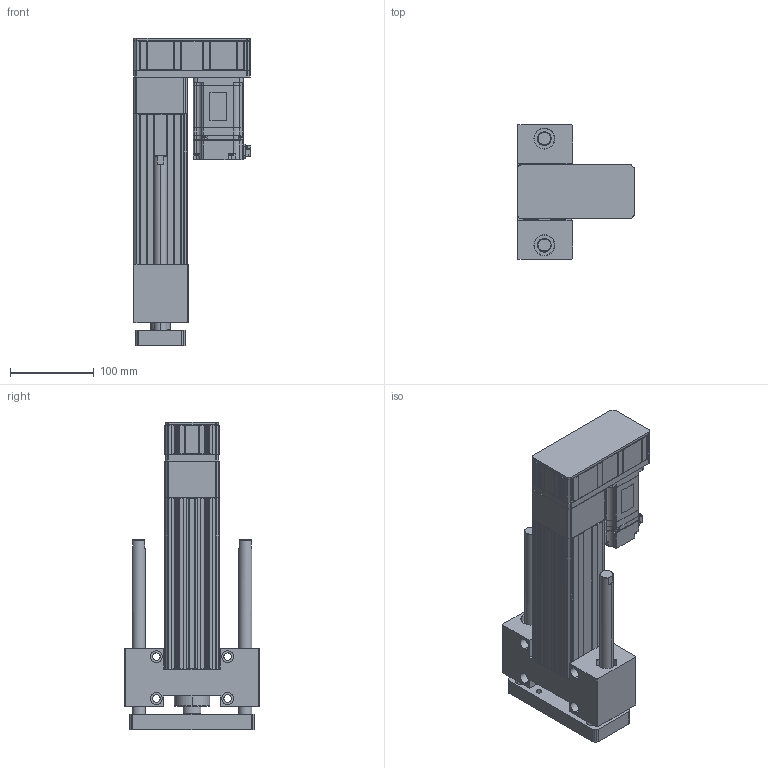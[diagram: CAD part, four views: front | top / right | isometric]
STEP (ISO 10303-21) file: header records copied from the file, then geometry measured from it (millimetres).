
FILE_DESCRIPTION (( 'STEP AP203' ), '1' );
FILE_NAME ('ANS065R-HP100-05(10)(20)-W40.STEP', '2019-03-01T09:35:58', ( 'user' ), ( '' ), 'SwSTEP 2.0', 'SolidWorks 2013', '' );
FILE_SCHEMA (( 'CONFIG_CONTROL_DESIGN' ));
Length unit declared in the file: millimetre
Products named in the file (4): ANS065 ROD ST100 H; ANS065R-HP100-05(10)(20)-W40; ANS065R HP100 VER2; sgmjv_04a_a21
Assembly tree (3 placements, depth 2):
  ANS065R-HP100-05(10)(20)-W40
    ANS065R HP100 VER2
    sgmjv_04a_a21
    ANS065 ROD ST100 H
Bounding box: 140.3 x 160 x 366 mm (x, y, z)
Volume: 1798430.1 mm3; surface area: 379550.7 mm2
Topology: 3 solids, 7 shells, 1457 faces, 3867 edges, 2498 vertices
Faces by surface type: plane 895, cylinder 452, cone 110
Entity records: 45317 total; most frequent: CARTESIAN_POINT 8114, ORIENTED_EDGE 7694, DIRECTION 7647, EDGE_CURVE 3847, VECTOR 2785, LINE 2785, VERTEX_POINT 2498, AXIS2_PLACEMENT_3D 2431
